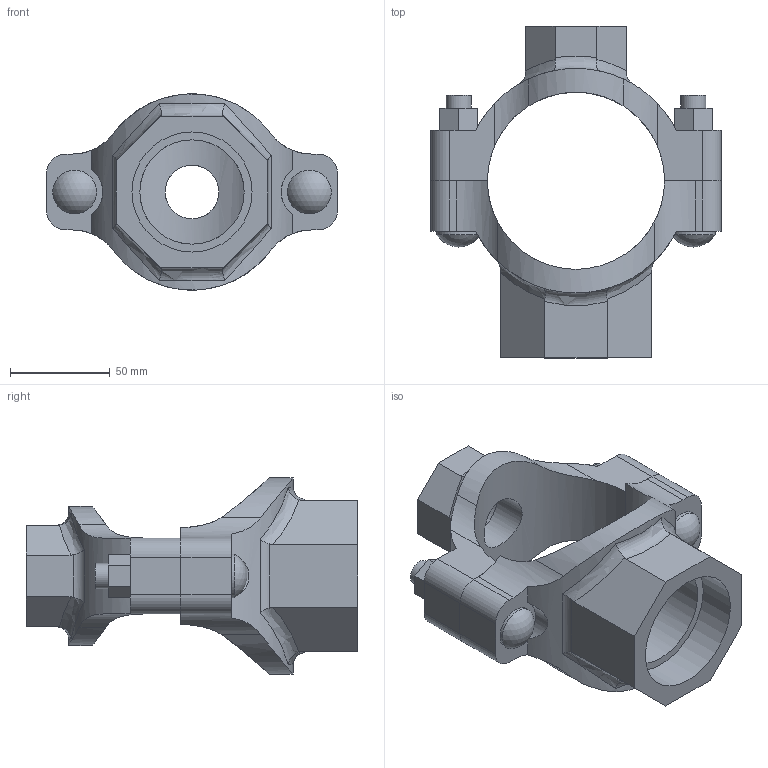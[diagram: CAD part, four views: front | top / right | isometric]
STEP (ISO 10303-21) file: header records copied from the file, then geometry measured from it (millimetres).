
FILE_DESCRIPTION(/* description */ ('VIC MECH-T BRANCH OUTLET CROSS STYLE 920N (THD)','CAx-IF Rec.Pracs.---Representation and Presentation of Product Manufacturing Information (PMI)---4.0---2014-10-13'),/* implementation_level */ '2;1');
FILE_NAME(/* name */ 'C:\Users\Vjadhav\AppData\Roaming\Autodesk\ApplicationPlugins\Back Up\Victaulic_IPS_Mechanical-Cross Outlet_Style 920N (FPT)\Victaulic_IPS_Mechanical-Cross Outlet_03.0x01.0x02.0 (80x25x50).stp',/* time_stamp */ '2020-08-06T18:57:35+05:00',/* author */ ('Vjadhav'),/* organization */ ('Victaulic'),/* preprocessor_version */ 'ST-DEVELOPER v17.2',/* originating_system */ 'Autodesk Inventor 2019',/* authorisation */ '');
FILE_SCHEMA (('AP242_MANAGED_MODEL_BASED_3D_ENGINEERING_MIM_LF { 1 0 10303 442 1 1 4 }'));
Length unit declared in the file: inch
Products named in the file (3): 920NT-03.0x01.0x02.0; 920NT-03.0x01.0; 920NT-03.0x02.0
Assembly tree (2 placements, depth 2):
  920NT-03.0x01.0x02.0
    920NT-03.0x01.0
    920NT-03.0x02.0
Bounding box: 146.05 x 166.62 x 98.5 mm (x, y, z)
Volume: 373490 mm3; surface area: 87467.9 mm2
Topology: 2 solids, 2 shells, 132 faces, 350 edges, 236 vertices
Faces by surface type: plane 68, cylinder 50, bspline 8, torus 4, sphere 2
Full cylindrical faces by diameter (mm): 12.7 x4, 21.982 x2, 26.987 x1, 33.401 x1, 52.387 x1, 60.325 x1
Entity records: 5152 total; most frequent: CARTESIAN_POINT 1639, ORIENTED_EDGE 700, DIRECTION 648, EDGE_CURVE 350, VERTEX_POINT 236, AXIS2_PLACEMENT_3D 231, LINE 186, VECTOR 186
